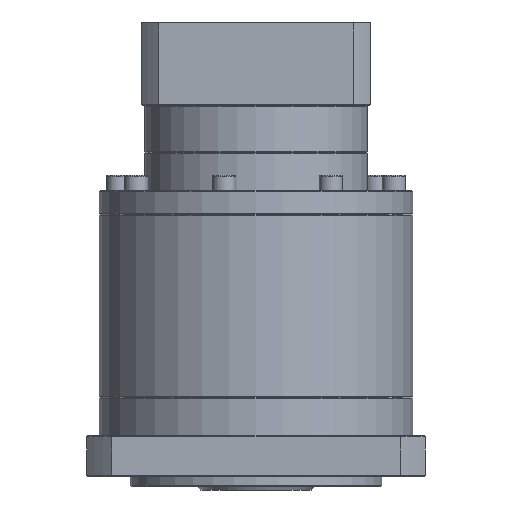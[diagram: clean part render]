
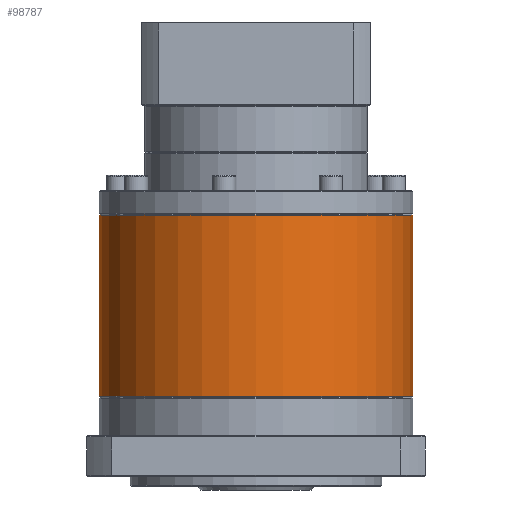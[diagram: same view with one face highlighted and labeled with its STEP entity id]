
A CAD part, front view. The second image highlights one B-rep face of the part: STEP entity #98787.
In plain terms, the highlighted cylindrical face has radius 81 mm (diameter 162 mm), a partial arc.
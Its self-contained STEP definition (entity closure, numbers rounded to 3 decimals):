
#530 = CIRCLE ( 'NONE', #86074, 81. ) ;
#1381 = VERTEX_POINT ( 'NONE', #60811 ) ;
#5588 = ORIENTED_EDGE ( 'NONE', *, *, #100639, .T. ) ;
#6683 = CARTESIAN_POINT ( 'NONE',  ( -31.465, 85.994, -48.801 ) ) ;
#6782 = ORIENTED_EDGE ( 'NONE', *, *, #62917, .T. ) ;
#12339 = LINE ( 'NONE', #50279, #41639 ) ;
#16969 = DIRECTION ( 'NONE',  ( 0., 0., -1. ) ) ;
#24322 = DIRECTION ( 'NONE',  ( -1., 0., 0. ) ) ;
#27834 = CARTESIAN_POINT ( 'NONE',  ( -31.465, 85.994, -48.301 ) ) ;
#37114 = VERTEX_POINT ( 'NONE', #6683 ) ;
#40521 = CARTESIAN_POINT ( 'NONE',  ( -112.465, 85.994, -48.301 ) ) ;
#41233 = DIRECTION ( 'NONE',  ( -1., 0., 0. ) ) ;
#41639 = VECTOR ( 'NONE', #89907, 1000. ) ;
#44075 = CARTESIAN_POINT ( 'NONE',  ( -31.465, 85.994, -142.301 ) ) ;
#46208 = DIRECTION ( 'NONE',  ( 0., 0., 1. ) ) ;
#50279 = CARTESIAN_POINT ( 'NONE',  ( -193.465, 85.994, -48.301 ) ) ;
#51746 = DIRECTION ( 'NONE',  ( 0., 0., -1. ) ) ;
#52903 = FACE_OUTER_BOUND ( 'NONE', #88447, .T. ) ;
#56534 = CYLINDRICAL_SURFACE ( 'NONE', #96477, 81. ) ;
#58544 = ORIENTED_EDGE ( 'NONE', *, *, #66904, .F. ) ;
#60811 = CARTESIAN_POINT ( 'NONE',  ( -193.465, 85.994, -48.801 ) ) ;
#62363 = CARTESIAN_POINT ( 'NONE',  ( -112.465, 85.994, -142.301 ) ) ;
#62917 = EDGE_CURVE ( 'NONE', #1381, #70857, #12339, .T. ) ;
#66904 = EDGE_CURVE ( 'NONE', #37114, #83222, #96539, .T. ) ;
#70857 = VERTEX_POINT ( 'NONE', #85173 ) ;
#73277 = VECTOR ( 'NONE', #51746, 1000. ) ;
#78357 = AXIS2_PLACEMENT_3D ( 'NONE', #99939, #99583, #100593 ) ;
#78725 = ORIENTED_EDGE ( 'NONE', *, *, #82690, .T. ) ;
#82690 = EDGE_CURVE ( 'NONE', #37114, #1381, #97599, .T. ) ;
#83222 = VERTEX_POINT ( 'NONE', #44075 ) ;
#85173 = CARTESIAN_POINT ( 'NONE',  ( -193.465, 85.994, -142.301 ) ) ;
#86074 = AXIS2_PLACEMENT_3D ( 'NONE', #62363, #46208, #24322 ) ;
#88447 = EDGE_LOOP ( 'NONE', ( #58544, #78725, #6782, #5588 ) ) ;
#89907 = DIRECTION ( 'NONE',  ( 0., 0., -1. ) ) ;
#96477 = AXIS2_PLACEMENT_3D ( 'NONE', #40521, #16969, #41233 ) ;
#96539 = LINE ( 'NONE', #27834, #73277 ) ;
#97599 = CIRCLE ( 'NONE', #78357, 81. ) ;
#98787 = ADVANCED_FACE ( 'NONE', ( #52903 ), #56534, .T. ) ;
#99583 = DIRECTION ( 'NONE',  ( 0., 0., -1. ) ) ;
#99939 = CARTESIAN_POINT ( 'NONE',  ( -112.465, 85.994, -48.801 ) ) ;
#100593 = DIRECTION ( 'NONE',  ( -1., 0., 0. ) ) ;
#100639 = EDGE_CURVE ( 'NONE', #70857, #83222, #530, .T. ) ;
